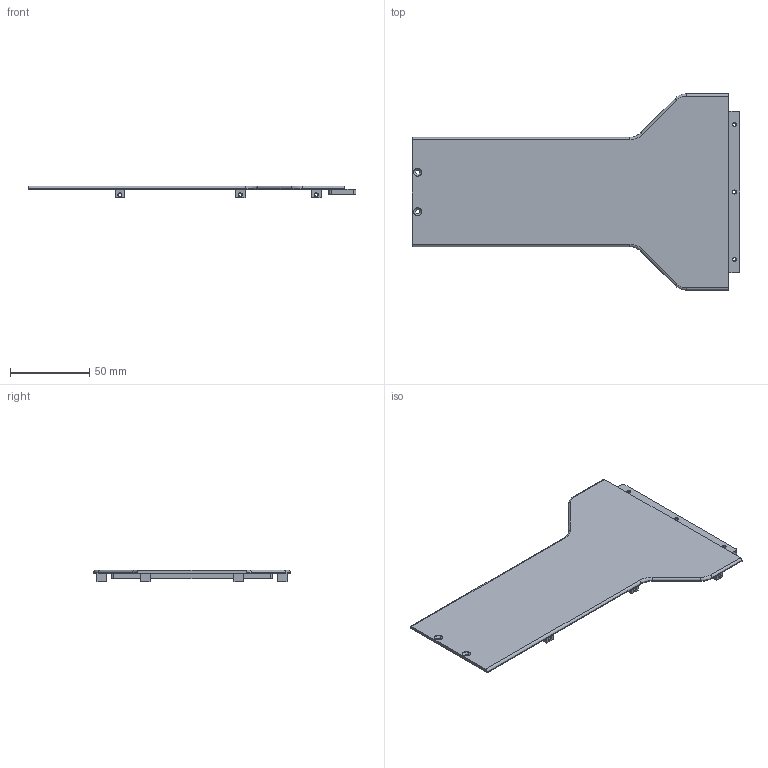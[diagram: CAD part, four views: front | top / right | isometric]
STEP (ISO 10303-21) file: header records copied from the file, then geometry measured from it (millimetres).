
FILE_DESCRIPTION (( 'STEP AP203' ), '1' );
FILE_NAME ('蟀諉碟极4.STEP', '2026-09-24T07:22:38', ( '' ), ( '' ), 'SwSTEP 2.0', 'SolidWorks 2016', '' );
FILE_SCHEMA (( 'CONFIG_CONTROL_DESIGN' ));
Length unit declared in the file: millimetre
Products named in the file (1): 蟀諉碟极4
Bounding box: 207 x 124 x 7.5 mm (x, y, z)
Volume: 34481.2 mm3; surface area: 36998.6 mm2
Topology: 1 solids, 1 shells, 129 faces, 326 edges, 206 vertices
Faces by surface type: plane 55, cylinder 48, cone 22, torus 4
Entity records: 3987 total; most frequent: DIRECTION 704, CARTESIAN_POINT 662, ORIENTED_EDGE 652, EDGE_CURVE 326, AXIS2_PLACEMENT_3D 248, VECTOR 208, LINE 208, VERTEX_POINT 206
